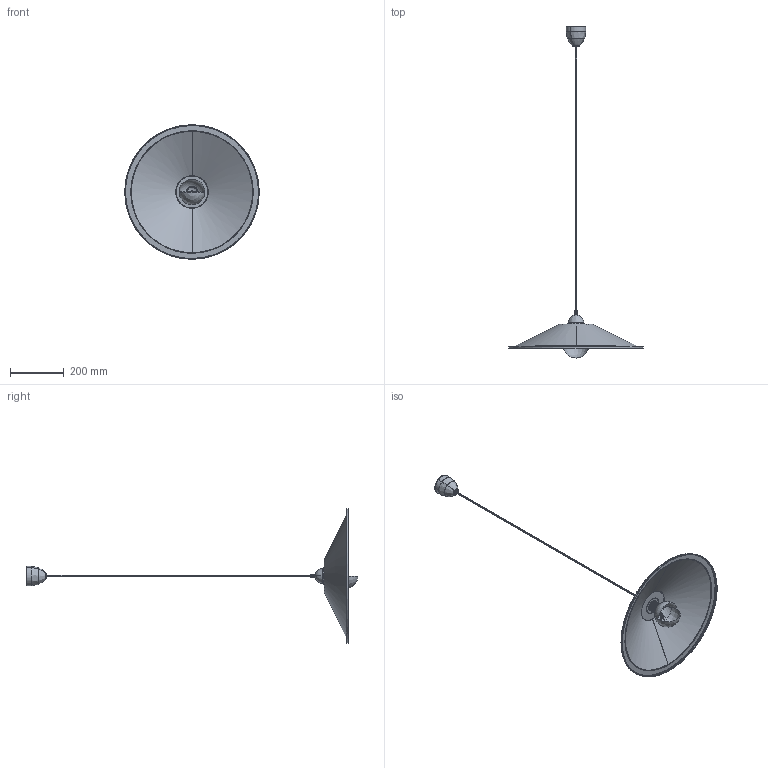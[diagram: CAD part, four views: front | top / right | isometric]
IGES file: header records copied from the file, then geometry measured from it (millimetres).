
Start section: SolidWorks IGES file using analytic representation for surfaces
Global section: file name: E:\3D lampy\Pavione\Pavione.IGS; native system: SolidWorks 2016; preprocessor: SolidWorks 2016; author: Asia; date: 161028.083026; units: millimetre
Bounding box: 500 x 1235.08 x 500 mm (x, y, z)
Surface area: 573859.9 mm2 (no closed solid volume)
Topology: 0 solids, 0 shells, 640 faces, 7200 edges, 7199 vertices
Faces by surface type: bspline 350, revolution 290
